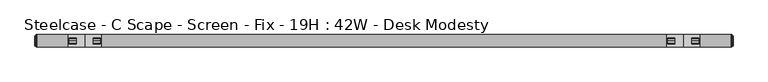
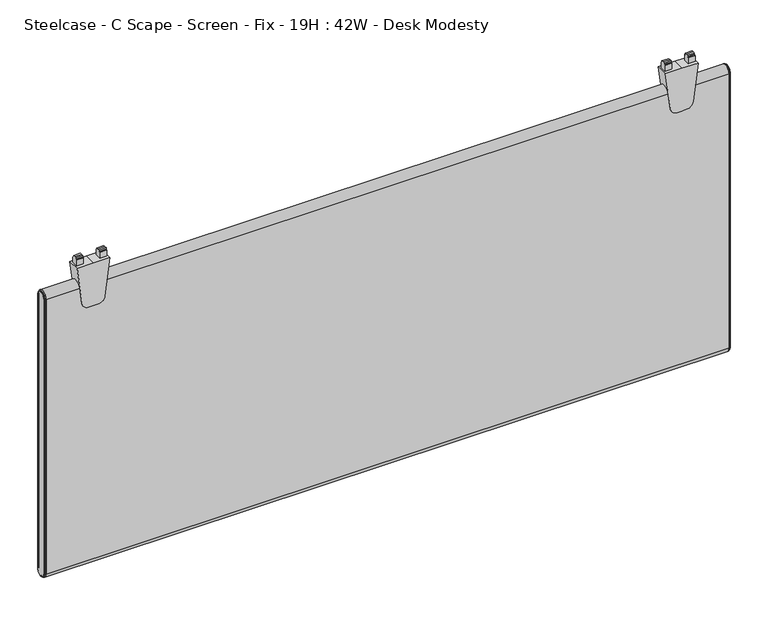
"""IFC4 building model written with IfcOpenShell, lengths in millimetres: furniture geometry, Steelcase - C Scape - Screen - Fix - 19H : 42W - Desk Modesty."""

from ifc_helpers import new_model, si_unit, point, frame, frame_2d, origin, place, context, project, spatial, polyline, circle_curve, ellipse_curve, trimmed, segment, composite_curve, outline, extrude, source, transform, mapped, element, save
from ifc_brep_helpers import plane_surface, cylinder_surface, revolved_surface, advanced_brep


def steelcase_c_scape_screen_fix_19h_42w_desk_modesty_6cd52c2d(model_context):
    return source(origin(), model_context, "Body", "SolidModel", [
        extrude(outline(composite_curve([segment(polyline([(703.414888, 101.4730434), (703.414888, 76.2001674), (703.414888, 50.9272915), (643.0897579, 58.3341853)]), True, "CONTINUOUS"), segment(trimmed(circle_curve(frame_2d((644.4116282, 69.1001018)), 10.8467645), [point((643.0897579, 58.3341853))], [point((633.5648638, 69.1001018))], False, "CARTESIAN"), True, "CONTINUOUS"), segment(polyline([(633.5648638, 69.1001018), (633.5648638, 76.2001674), (633.5648638, 83.300233)]), True, "CONTINUOUS"), segment(trimmed(circle_curve(frame_2d((644.4116282, 83.300233)), 10.8467645), [point((633.5648638, 83.300233))], [point((643.0897579, 94.0661495))], False, "CARTESIAN"), True, "CONTINUOUS"), segment(polyline([(643.0897579, 94.0661495), (703.414888, 101.4730434)]), True, "CONTINUOUS")], self_intersect=False)), frame((0.0, -9.525, 0.0), z_axis=(0.0, 1.0, 0.0), x_axis=(0.0, 0.0, 1.0)), (0.0, 0.0, 1.0), 19.05),
        extrude(outline(polyline([(-4.5465975, 703.414888), (-4.5465975, 713.3208967), (-4.0139265, 714.2073252), (-2.9972008, 714.2073252), (-2.9972008, 716.4425812), (0.0, 716.534), (2.9972008, 716.4425812), (2.9972008, 714.2073252), (4.0139265, 714.2073252), (4.5465975, 713.3208967), (4.5465975, 703.414888), (0.0, 703.414888), (-4.5465975, 703.414888)])), frame((88.9267162, 0.0, 0.0), z_axis=(1.0, 0.0, 0.0), x_axis=(0.0, 1.0, 0.0)), (0.0, 0.0, 1.0), 10.7813187),
        extrude(outline(polyline([(-4.5465975, 703.414888), (-4.5465975, 713.3208967), (-4.0139265, 714.2073252), (-2.9972008, 714.2073252), (-2.9972008, 716.4425812), (0.0, 716.534), (2.9972008, 716.4425812), (2.9972008, 714.2073252), (4.0139265, 714.2073252), (4.5465975, 713.3208967), (4.5465975, 703.414888), (0.0, 703.414888), (-4.5465975, 703.414888)])), frame((52.6923, 0.0, 0.0), z_axis=(1.0, 0.0, 0.0), x_axis=(0.0, 1.0, 0.0)), (0.0, 0.0, 1.0), 10.7813187),
        extrude(outline(composite_curve([segment(polyline([(703.414888, 1015.1107132), (703.414888, 989.8378372), (703.414888, 964.5649612), (643.0897579, 971.9718551)]), True, "CONTINUOUS"), segment(trimmed(circle_curve(frame_2d((644.4116282, 982.7377716)), 10.8467645), [point((643.0897579, 971.9718551))], [point((633.5648638, 982.7377716))], False, "CARTESIAN"), True, "CONTINUOUS"), segment(polyline([(633.5648638, 982.7377716), (633.5648638, 989.8378372), (633.5648638, 996.9379028)]), True, "CONTINUOUS"), segment(trimmed(circle_curve(frame_2d((644.4116282, 996.9379028)), 10.8467645), [point((633.5648638, 996.9379028))], [point((643.0897579, 1007.7038193))], False, "CARTESIAN"), True, "CONTINUOUS"), segment(polyline([(643.0897579, 1007.7038193), (703.414888, 1015.1107132)]), True, "CONTINUOUS")], self_intersect=False)), frame((0.0, -9.525, 0.0), z_axis=(0.0, 1.0, 0.0), x_axis=(0.0, 0.0, 1.0)), (0.0, 0.0, 1.0), 19.05),
        extrude(outline(polyline([(-4.5465975, 703.414888), (-4.5465975, 713.3208967), (-4.0139265, 714.2073252), (-2.9972008, 714.2073252), (-2.9972008, 716.4425812), (0.0, 716.534), (2.9972008, 716.4425812), (2.9972008, 714.2073252), (4.0139265, 714.2073252), (4.5465975, 713.3208967), (4.5465975, 703.414888), (0.0, 703.414888), (-4.5465975, 703.414888)])), frame((1002.564386, 0.0, 0.0), z_axis=(1.0, 0.0, 0.0), x_axis=(0.0, 1.0, 0.0)), (0.0, 0.0, 1.0), 10.7813187),
        extrude(outline(polyline([(-4.5465975, 703.414888), (-4.5465975, 713.3208967), (-4.0139265, 714.2073252), (-2.9972008, 714.2073252), (-2.9972008, 716.4425812), (0.0, 716.534), (2.9972008, 716.4425812), (2.9972008, 714.2073252), (4.0139265, 714.2073252), (4.5465975, 713.3208967), (4.5465975, 703.414888), (0.0, 703.414888), (-4.5465975, 703.414888)])), frame((966.3299698, 0.0, 0.0), z_axis=(1.0, 0.0, 0.0), x_axis=(0.0, 1.0, 0.0)), (0.0, 0.0, 1.0), 10.7813187),
        advanced_brep(
        [(1063.2486613, -9.525, 668.909), (1063.2486613, 9.525, 668.909), (1063.2486613, 9.525, 218.059), (1063.2486613, -9.525, 218.059), (1066.0426613, 7.4929583, 668.909), (1066.0426613, -7.4929583, 668.909), (1066.0426613, -7.4929583, 218.059), (1066.0426613, 7.4929583, 218.059), (1065.5346545, -8.0009651, 668.909), (1065.5346545, 8.0009651, 668.909), (1064.2646613, 8.0009651, 668.909), (1064.2646613, -8.0009651, 668.909), (1064.2646613, -8.8204932, 668.909), (1064.2646613, 8.8204932, 668.909), (1064.2646613, -8.0009651, 218.059), (1065.5346545, -8.0009651, 218.059), (1064.2646613, -8.8204932, 218.059), (1064.2646613, 8.0009651, 218.059), (1065.5346545, 8.0009651, 218.059), (1064.2646613, 8.8204932, 218.059)],
        [
            (0, 1, circle_curve(frame((1063.2486613, 0.0, 668.909), z_axis=(-1.0, 0.0, 0.0), x_axis=(0.0, 1.0, 0.0)), 9.525)),
            (1, 2),
            (2, 3, circle_curve(frame((1063.2486613, 0.0, 218.059), z_axis=(-1.0, 0.0, 0.0), x_axis=(0.0, -1.0, 0.0)), 9.525)),
            (3, 0),
            (4, 5, circle_curve(frame((1066.0426613, 0.0, 668.909), z_axis=(1.0, 0.0, 0.0), x_axis=(0.0, 1.0, 0.0)), 7.4929583)),
            (5, 6),
            (6, 7, circle_curve(frame((1066.0426613, 0.0, 218.059), z_axis=(1.0, 0.0, 0.0), x_axis=(0.0, -1.0, 0.0)), 7.4929583)),
            (7, 4),
            (8, 9, circle_curve(frame((1065.5346545, 0.0, 668.909), z_axis=(-1.0, 0.0, 0.0), x_axis=(0.0, 1.0, 0.0)), 8.0009651)),
            (9, 10),
            (10, 11, circle_curve(frame((1064.2646613, 0.0, 668.909), z_axis=(1.0, 0.0, 0.0), x_axis=(0.0, 1.0, 0.0)), 8.0009651)),
            (11, 8),
            (8, 5, circle_curve(frame((1065.5346545, -7.4929583, 668.909), z_axis=(0.0, 0.0, 1.0), x_axis=(0.0, -1.0, 0.0)), 0.5080068)),
            (4, 9, circle_curve(frame((1065.5346545, 7.4929583, 668.909), z_axis=(0.0, 0.0, 1.0), x_axis=(0.0, 1.0, 0.0)), 0.5080068)),
            (12, 13, circle_curve(frame((1064.2646613, 0.0, 668.909), z_axis=(-1.0, 0.0, 0.0), x_axis=(0.0, 1.0, 0.0)), 8.8204932)),
            (13, 1, circle_curve(frame((1063.1806211, 8.3420139, 668.909), z_axis=(0.0, 0.0, 1.0), x_axis=(0.0, 1.0, 0.0)), 1.1849411)),
            (0, 12, circle_curve(frame((1063.1806211, -8.3420139, 668.909), z_axis=(0.0, 0.0, 1.0), x_axis=(0.0, -1.0, 0.0)), 1.1849411)),
            (11, 14),
            (14, 15),
            (15, 8),
            (15, 6, circle_curve(frame((1065.5346545, -7.4929583, 218.059), z_axis=(0.0, 0.0, 1.0), x_axis=(0.0, -1.0, 0.0)), 0.5080068)),
            (3, 16, circle_curve(frame((1063.1806211, -8.3420139, 218.059), z_axis=(0.0, 0.0, 1.0), x_axis=(0.0, -1.0, 0.0)), 1.1849411)),
            (16, 12),
            (14, 17, circle_curve(frame((1064.2646613, 0.0, 218.059), z_axis=(1.0, 0.0, 0.0), x_axis=(0.0, -1.0, 0.0)), 8.0009651)),
            (17, 18),
            (18, 15, circle_curve(frame((1065.5346545, 0.0, 218.059), z_axis=(-1.0, 0.0, 0.0), x_axis=(0.0, -1.0, 0.0)), 8.0009651)),
            (18, 7, circle_curve(frame((1065.5346545, 7.4929583, 218.059), z_axis=(0.0, 0.0, -1.0), x_axis=(0.0, 1.0, 0.0)), 0.5080068)),
            (2, 19, circle_curve(frame((1063.1806211, 8.3420139, 218.059), z_axis=(0.0, 0.0, -1.0), x_axis=(0.0, 1.0, 0.0)), 1.1849411)),
            (19, 16, circle_curve(frame((1064.2646613, 0.0, 218.059), z_axis=(-1.0, 0.0, 0.0), x_axis=(0.0, -1.0, 0.0)), 8.8204932)),
            (9, 18),
            (17, 10),
            (13, 19),
        ],
        [
            plane_surface(frame((1063.2486613, -6.3509705, 668.909), z_axis=(-1.0, 0.0, 0.0), x_axis=(0.0, 0.0, 1.0))),
            plane_surface(frame((1066.0426613, -6.3509705, 668.909), z_axis=(1.0, 0.0, 0.0), x_axis=(0.0, 0.0, -1.0))),
            cylinder_surface(frame((1063.2486613, 0.0, 668.909), z_axis=(1.0, 0.0, 0.0), x_axis=(0.0, 1.0, 0.0)), 8.0009651),
            revolved_surface(trimmed(ellipse_curve(frame((1065.5346545, 7.4929583, 668.909), z_axis=(0.0, 0.0, -1.0), x_axis=(0.0, 1.0, 0.0)), 0.5080068, 0.5080068), [point((1065.5346545, 8.0009651, 668.909))], [point((1066.0426613, 7.4929583, 668.909))], True, "CARTESIAN"), (1063.2486613, 0.0, 668.909), (1.0, 0.0, 0.0)),
            revolved_surface(trimmed(ellipse_curve(frame((1063.1806211, 8.3420139, 668.909), z_axis=(0.0, 0.0, -1.0), x_axis=(0.0, 1.0, 0.0)), 1.1849411, 1.1849411), [point((1063.2486613, 9.525, 668.909))], [point((1064.2646613, 8.8204932, 668.909))], True, "CARTESIAN"), (1063.2486613, 0.0, 668.909), (1.0, 0.0, 0.0)),
            plane_surface(frame((1064.2646613, -8.0009651, 668.909), z_axis=(0.0, -1.0, 0.0), x_axis=(0.0, 0.0, -1.0))),
            cylinder_surface(frame((1065.5346545, -7.4929583, 668.909), z_axis=(0.0, 0.0, 1.0), x_axis=(0.0, -1.0, 0.0)), 0.5080068),
            cylinder_surface(frame((1063.1806211, -8.3420139, 668.909), z_axis=(0.0, 0.0, 1.0), x_axis=(0.0, -1.0, 0.0)), 1.1849411),
            cylinder_surface(frame((1063.2486613, 0.0, 218.059), z_axis=(1.0, 0.0, 0.0), x_axis=(0.0, -1.0, 0.0)), 8.0009651),
            revolved_surface(trimmed(ellipse_curve(frame((1065.5346545, -7.4929583, 218.059), z_axis=(0.0, 0.0, 1.0), x_axis=(0.0, -1.0, 0.0)), 0.5080068, 0.5080068), [point((1065.5346545, -8.0009651, 218.059))], [point((1066.0426613, -7.4929583, 218.059))], True, "CARTESIAN"), (1063.2486613, 0.0, 218.059), (1.0, 0.0, 0.0)),
            revolved_surface(trimmed(ellipse_curve(frame((1063.1806211, -8.3420139, 218.059), z_axis=(0.0, 0.0, 1.0), x_axis=(0.0, -1.0, 0.0)), 1.1849411, 1.1849411), [point((1063.2486613, -9.525, 218.059))], [point((1064.2646613, -8.8204932, 218.059))], True, "CARTESIAN"), (1063.2486613, 0.0, 218.059), (1.0, 0.0, 0.0)),
            plane_surface(frame((1064.2646613, 8.0009651, 218.059), z_axis=(0.0, 1.0, 0.0), x_axis=(0.0, 0.0, 1.0))),
            cylinder_surface(frame((1065.5346545, 7.4929583, 218.059), z_axis=(0.0, 0.0, -1.0), x_axis=(0.0, 1.0, 0.0)), 0.5080068),
            cylinder_surface(frame((1063.1806211, 8.3420139, 218.059), z_axis=(0.0, 0.0, -1.0), x_axis=(0.0, 1.0, 0.0)), 1.1849411),
            plane_surface(frame((1064.2646613, 8.8204932, 218.059), z_axis=(1.0, 0.0, 0.0), x_axis=(0.0, 0.0, 1.0))),
        ],
        [
            (0, [[1, 2, 3, 4]]),
            (1, [[5, 6, 7, 8]]),
            (2, [[9, 10, 11, 12]]),
            (3, [[-9, 13, -5, 14]]),
            (4, [[15, 16, -1, 17]]),
            (5, [[-12, 18, 19, 20]]),
            (6, [[-13, -20, 21, -6]]),
            (7, [[-17, -4, 22, 23]]),
            (8, [[-19, 24, 25, 26]]),
            (9, [[-21, -26, 27, -7]]),
            (10, [[-22, -3, 28, 29]]),
            (11, [[-10, 30, -25, 31]]),
            (12, [[-14, -8, -27, -30]]),
            (13, [[-16, 32, -28, -2]]),
            (14, [[-15, -23, -29, -32], [-11, -31, -24, -18]]),
        ],
    ),
        advanced_brep(
        [(2.7940155, 9.525, 668.909), (2.7940155, -9.525, 668.909), (2.7940155, -9.525, 218.059), (2.7940155, 9.525, 218.059), (0.0, -7.4929583, 668.909), (0.0, 7.4929583, 668.909), (0.0, 7.4929583, 218.059), (0.0, -7.4929583, 218.059), (1.778, 8.8204932, 668.909), (1.778, -8.8204932, 668.909), (0.5080068, -8.0009651, 668.909), (0.5080068, 8.0009651, 668.909), (1.778, -8.0009651, 668.909), (1.778, 8.0009651, 668.909), (1.778, -8.8204932, 218.059), (0.5080068, -8.0009651, 218.059), (1.778, -8.0009651, 218.059), (1.778, 8.8204932, 218.059), (0.5080068, 8.0009651, 218.059), (1.778, 8.0009651, 218.059)],
        [
            (0, 1, circle_curve(frame((2.7940155, 0.0, 668.909), z_axis=(1.0, 0.0, 0.0), x_axis=(0.0, 1.0, 0.0)), 9.525)),
            (1, 2),
            (2, 3, circle_curve(frame((2.7940155, 0.0, 218.059), z_axis=(1.0, 0.0, 0.0), x_axis=(0.0, -1.0, 0.0)), 9.525)),
            (3, 0),
            (4, 5, circle_curve(frame((0.0, 0.0, 668.909), z_axis=(-1.0, 0.0, 0.0), x_axis=(0.0, 1.0, 0.0)), 7.4929583)),
            (5, 6),
            (6, 7, circle_curve(frame((0.0, 0.0, 218.059), z_axis=(-1.0, 0.0, 0.0), x_axis=(0.0, -1.0, 0.0)), 7.4929583)),
            (7, 4),
            (0, 8, circle_curve(frame((2.8620402, 8.3420139, 668.909), z_axis=(0.0, 0.0, 1.0), x_axis=(0.0, -1.0, 0.0)), 1.1849411)),
            (8, 9, circle_curve(frame((1.778, 0.0, 668.909), z_axis=(1.0, 0.0, 0.0), x_axis=(0.0, 1.0, 0.0)), 8.8204932)),
            (9, 1, circle_curve(frame((2.8620402, -8.3420139, 668.909), z_axis=(0.0, 0.0, 1.0), x_axis=(0.0, 1.0, 0.0)), 1.1849411)),
            (10, 11, circle_curve(frame((0.5080068, 0.0, 668.909), z_axis=(-1.0, 0.0, 0.0), x_axis=(0.0, 1.0, 0.0)), 8.0009651)),
            (11, 5, circle_curve(frame((0.5080068, 7.4929583, 668.909), z_axis=(0.0, 0.0, 1.0), x_axis=(0.0, -1.0, 0.0)), 0.5080068)),
            (4, 10, circle_curve(frame((0.5080068, -7.4929583, 668.909), z_axis=(0.0, 0.0, 1.0), x_axis=(0.0, 1.0, 0.0)), 0.5080068)),
            (10, 12),
            (12, 13, circle_curve(frame((1.778, 0.0, 668.909), z_axis=(-1.0, 0.0, 0.0), x_axis=(0.0, 1.0, 0.0)), 8.0009651)),
            (13, 11),
            (9, 14),
            (14, 2, circle_curve(frame((2.8620402, -8.3420139, 218.059), z_axis=(0.0, 0.0, 1.0), x_axis=(0.0, 1.0, 0.0)), 1.1849411)),
            (7, 15, circle_curve(frame((0.5080068, -7.4929583, 218.059), z_axis=(0.0, 0.0, 1.0), x_axis=(0.0, 1.0, 0.0)), 0.5080068)),
            (15, 10),
            (15, 16),
            (16, 12),
            (14, 17, circle_curve(frame((1.778, 0.0, 218.059), z_axis=(1.0, 0.0, 0.0), x_axis=(0.0, -1.0, 0.0)), 8.8204932)),
            (17, 3, circle_curve(frame((2.8620402, 8.3420139, 218.059), z_axis=(0.0, 0.0, -1.0), x_axis=(0.0, -1.0, 0.0)), 1.1849411)),
            (6, 18, circle_curve(frame((0.5080068, 7.4929583, 218.059), z_axis=(0.0, 0.0, -1.0), x_axis=(0.0, -1.0, 0.0)), 0.5080068)),
            (18, 15, circle_curve(frame((0.5080068, 0.0, 218.059), z_axis=(-1.0, 0.0, 0.0), x_axis=(0.0, -1.0, 0.0)), 8.0009651)),
            (18, 19),
            (19, 16, circle_curve(frame((1.778, 0.0, 218.059), z_axis=(-1.0, 0.0, 0.0), x_axis=(0.0, -1.0, 0.0)), 8.0009651)),
            (8, 17),
            (19, 13),
            (11, 18),
        ],
        [
            plane_surface(frame((2.7940155, -6.3509705, 668.909), z_axis=(1.0, 0.0, 0.0), x_axis=(0.0, 0.0, -1.0))),
            plane_surface(frame((0.0, -6.3509705, 668.909), z_axis=(-1.0, 0.0, 0.0), x_axis=(0.0, 0.0, 1.0))),
            revolved_surface(trimmed(ellipse_curve(frame((2.8620402, 8.3420139, 668.909), z_axis=(0.0, 0.0, -1.0), x_axis=(0.0, -1.0, 0.0)), 1.1849411, 1.1849411), [point((1.778, 8.8204932, 668.909))], [point((2.794, 9.525, 668.909))], True, "CARTESIAN"), (2.794, 0.0, 668.909), (1.0, 0.0, 0.0)),
            revolved_surface(trimmed(ellipse_curve(frame((0.5080068, 7.4929583, 668.909), z_axis=(0.0, 0.0, -1.0), x_axis=(0.0, -1.0, 0.0)), 0.5080068, 0.5080068), [point((0.0, 7.4929583, 668.909))], [point((0.5080068, 8.0009651, 668.909))], True, "CARTESIAN"), (2.794, 0.0, 668.909), (1.0, 0.0, 0.0)),
            cylinder_surface(frame((2.794, 0.0, 668.909), z_axis=(1.0, 0.0, 0.0), x_axis=(0.0, 1.0, 0.0)), 8.0009651),
            cylinder_surface(frame((2.8620402, -8.3420139, 668.909), z_axis=(0.0, 0.0, 1.0), x_axis=(0.0, 1.0, 0.0)), 1.1849411),
            cylinder_surface(frame((0.5080068, -7.4929583, 668.909), z_axis=(0.0, 0.0, 1.0), x_axis=(0.0, 1.0, 0.0)), 0.5080068),
            plane_surface(frame((0.5080068, -8.0009651, 668.909), z_axis=(0.0, -1.0, 0.0), x_axis=(0.0, 0.0, -1.0))),
            revolved_surface(trimmed(ellipse_curve(frame((2.8620402, -8.3420139, 218.059), z_axis=(0.0, 0.0, 1.0), x_axis=(0.0, 1.0, 0.0)), 1.1849411, 1.1849411), [point((1.778, -8.8204932, 218.059))], [point((2.794, -9.525, 218.059))], True, "CARTESIAN"), (2.794, 0.0, 218.059), (1.0, 0.0, 0.0)),
            revolved_surface(trimmed(ellipse_curve(frame((0.5080068, -7.4929583, 218.059), z_axis=(0.0, 0.0, 1.0), x_axis=(0.0, 1.0, 0.0)), 0.5080068, 0.5080068), [point((0.0, -7.4929583, 218.059))], [point((0.5080068, -8.0009651, 218.059))], True, "CARTESIAN"), (2.794, 0.0, 218.059), (1.0, 0.0, 0.0)),
            cylinder_surface(frame((2.794, 0.0, 218.059), z_axis=(1.0, 0.0, 0.0), x_axis=(0.0, -1.0, 0.0)), 8.0009651),
            plane_surface(frame((1.778, 8.0009651, 218.059), z_axis=(-1.0, 0.0, 0.0), x_axis=(0.0, 0.0, 1.0))),
            cylinder_surface(frame((2.8620402, 8.3420139, 218.059), z_axis=(0.0, 0.0, -1.0), x_axis=(0.0, -1.0, 0.0)), 1.1849411),
            cylinder_surface(frame((0.5080068, 7.4929583, 218.059), z_axis=(0.0, 0.0, -1.0), x_axis=(0.0, -1.0, 0.0)), 0.5080068),
            plane_surface(frame((0.5080068, 8.0009651, 218.059), z_axis=(0.0, 1.0, 0.0), x_axis=(0.0, 0.0, 1.0))),
        ],
        [
            (0, [[1, 2, 3, 4]]),
            (1, [[5, 6, 7, 8]]),
            (2, [[-1, 9, 10, 11]]),
            (3, [[12, 13, -5, 14]]),
            (4, [[-12, 15, 16, 17]]),
            (5, [[-11, 18, 19, -2]]),
            (6, [[-14, -8, 20, 21]]),
            (7, [[-15, -21, 22, 23]]),
            (8, [[-19, 24, 25, -3]]),
            (9, [[-20, -7, 26, 27]]),
            (10, [[-22, -27, 28, 29]]),
            (11, [[-10, 30, -24, -18], [-16, -23, -29, 31]]),
            (12, [[-9, -4, -25, -30]]),
            (13, [[-13, 32, -26, -6]]),
            (14, [[-17, -31, -28, -32]]),
        ],
    ),
        extrude(outline(composite_curve([segment(trimmed(circle_curve(frame_2d((0.0, 668.909)), 9.525), [point((-9.525, 668.909))], [point((9.525, 668.909))], False, "CARTESIAN"), True, "CONTINUOUS"), segment(polyline([(9.525, 668.909), (9.525, 218.059)]), True, "CONTINUOUS"), segment(trimmed(circle_curve(frame_2d((0.0, 218.059)), 9.525), [point((9.525, 218.059))], [point((-9.525, 218.059))], False, "CARTESIAN"), True, "CONTINUOUS"), segment(polyline([(-9.525, 218.059), (-9.525, 668.909)]), True, "CONTINUOUS")], self_intersect=False)), frame((2.794, 0.0, 0.0), z_axis=(1.0, 0.0, 0.0), x_axis=(0.0, 1.0, 0.0)), (0.0, 0.0, 1.0), 1060.4546613),
    ])


if __name__ == "__main__":
    model = new_model("IFC4")
    model_context = context("Model", 3, world=origin())
    ifc_project = project(units=[si_unit("LENGTHUNIT", "METRE", prefix="MILLI")], contexts=[model_context])
    site = spatial("IfcSite", under=ifc_project)
    building = spatial("IfcBuilding", under=site)
    placement = place(None, origin())
    steelcase_c_scape_screen_fix_19h_42w_desk_modesty_shape = steelcase_c_scape_screen_fix_19h_42w_desk_modesty_6cd52c2d(model_context)
    element("IfcFurniture", 1, ObjectType="Steelcase - C Scape - Screen - Fix - 19H : 42W - Desk Modesty", at=placement, inside=building, context=model_context, shape_type="MappedRepresentation", body=[
        mapped(steelcase_c_scape_screen_fix_19h_42w_desk_modesty_shape, transform((0.0, 0.0, 0.0), x_axis=(1.0, 0.0, 0.0), y_axis=(0.0, 1.0, 0.0), z_axis=(0.0, 0.0, 1.0))),
    ])
    save(model, "model.ifc")
